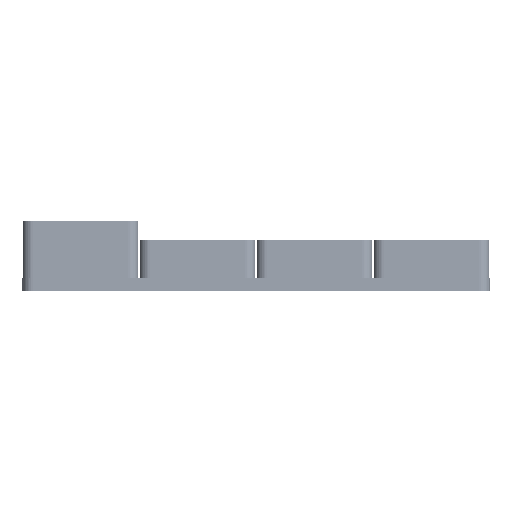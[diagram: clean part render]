
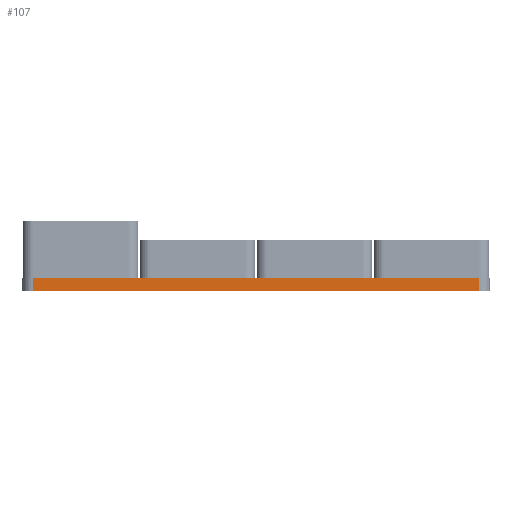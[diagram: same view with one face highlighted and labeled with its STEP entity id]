
A CAD part, left-side view. The second image highlights one B-rep face of the part: STEP entity #107.
In plain terms, the highlighted planar face has unit normal (-1, 0, 0).
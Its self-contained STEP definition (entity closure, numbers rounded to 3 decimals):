
#107 = ADVANCED_FACE('',(#108),#122,.F.);
#108 = FACE_BOUND('',#109,.F.);
#109 = EDGE_LOOP('',(#110,#145,#173,#201));
#110 = ORIENTED_EDGE('',*,*,#111,.F.);
#111 = EDGE_CURVE('',#112,#114,#116,.T.);
#112 = VERTEX_POINT('',#113);
#113 = CARTESIAN_POINT('',(-105.,-80.,4.75));
#114 = VERTEX_POINT('',#115);
#115 = CARTESIAN_POINT('',(-105.,80.,4.75));
#116 = SURFACE_CURVE('',#117,(#121,#133),.PCURVE_S1.);
#117 = LINE('',#118,#119);
#118 = CARTESIAN_POINT('',(-105.,-84.,4.75));
#119 = VECTOR('',#120,1.);
#120 = DIRECTION('',(-0.,1.,0.));
#121 = PCURVE('',#122,#127);
#122 = PLANE('',#123);
#123 = AXIS2_PLACEMENT_3D('',#124,#125,#126);
#124 = CARTESIAN_POINT('',(-105.,-84.,0.));
#125 = DIRECTION('',(1.,0.,-0.));
#126 = DIRECTION('',(0.,0.,1.));
#127 = DEFINITIONAL_REPRESENTATION('',(#128),#132);
#128 = LINE('',#129,#130);
#129 = CARTESIAN_POINT('',(4.75,0.));
#130 = VECTOR('',#131,1.);
#131 = DIRECTION('',(0.,-1.));
#132 = ( GEOMETRIC_REPRESENTATION_CONTEXT(2) 
PARAMETRIC_REPRESENTATION_CONTEXT() REPRESENTATION_CONTEXT('2D SPACE',''
  ) );
#133 = PCURVE('',#134,#139);
#134 = PLANE('',#135);
#135 = AXIS2_PLACEMENT_3D('',#136,#137,#138);
#136 = CARTESIAN_POINT('',(-105.,-84.,4.75));
#137 = DIRECTION('',(0.,0.,1.));
#138 = DIRECTION('',(1.,0.,-0.));
#139 = DEFINITIONAL_REPRESENTATION('',(#140),#144);
#140 = LINE('',#141,#142);
#141 = CARTESIAN_POINT('',(0.,0.));
#142 = VECTOR('',#143,1.);
#143 = DIRECTION('',(0.,1.));
#144 = ( GEOMETRIC_REPRESENTATION_CONTEXT(2) 
PARAMETRIC_REPRESENTATION_CONTEXT() REPRESENTATION_CONTEXT('2D SPACE',''
  ) );
#145 = ORIENTED_EDGE('',*,*,#146,.F.);
#146 = EDGE_CURVE('',#147,#112,#149,.T.);
#147 = VERTEX_POINT('',#148);
#148 = CARTESIAN_POINT('',(-105.,-80.,0.));
#149 = SURFACE_CURVE('',#150,(#154,#161),.PCURVE_S1.);
#150 = LINE('',#151,#152);
#151 = CARTESIAN_POINT('',(-105.,-80.,0.));
#152 = VECTOR('',#153,1.);
#153 = DIRECTION('',(0.,0.,1.));
#154 = PCURVE('',#122,#155);
#155 = DEFINITIONAL_REPRESENTATION('',(#156),#160);
#156 = LINE('',#157,#158);
#157 = CARTESIAN_POINT('',(0.,-4.));
#158 = VECTOR('',#159,1.);
#159 = DIRECTION('',(1.,0.));
#160 = ( GEOMETRIC_REPRESENTATION_CONTEXT(2) 
PARAMETRIC_REPRESENTATION_CONTEXT() REPRESENTATION_CONTEXT('2D SPACE',''
  ) );
#161 = PCURVE('',#162,#167);
#162 = CYLINDRICAL_SURFACE('',#163,4.);
#163 = AXIS2_PLACEMENT_3D('',#164,#165,#166);
#164 = CARTESIAN_POINT('',(-101.,-80.,0.));
#165 = DIRECTION('',(0.,0.,1.));
#166 = DIRECTION('',(-1.,-0.,0.));
#167 = DEFINITIONAL_REPRESENTATION('',(#168),#172);
#168 = LINE('',#169,#170);
#169 = CARTESIAN_POINT('',(0.,0.));
#170 = VECTOR('',#171,1.);
#171 = DIRECTION('',(0.,1.));
#172 = ( GEOMETRIC_REPRESENTATION_CONTEXT(2) 
PARAMETRIC_REPRESENTATION_CONTEXT() REPRESENTATION_CONTEXT('2D SPACE',''
  ) );
#173 = ORIENTED_EDGE('',*,*,#174,.T.);
#174 = EDGE_CURVE('',#147,#175,#177,.T.);
#175 = VERTEX_POINT('',#176);
#176 = CARTESIAN_POINT('',(-105.,80.,0.));
#177 = SURFACE_CURVE('',#178,(#182,#189),.PCURVE_S1.);
#178 = LINE('',#179,#180);
#179 = CARTESIAN_POINT('',(-105.,-84.,0.));
#180 = VECTOR('',#181,1.);
#181 = DIRECTION('',(-0.,1.,0.));
#182 = PCURVE('',#122,#183);
#183 = DEFINITIONAL_REPRESENTATION('',(#184),#188);
#184 = LINE('',#185,#186);
#185 = CARTESIAN_POINT('',(0.,0.));
#186 = VECTOR('',#187,1.);
#187 = DIRECTION('',(0.,-1.));
#188 = ( GEOMETRIC_REPRESENTATION_CONTEXT(2) 
PARAMETRIC_REPRESENTATION_CONTEXT() REPRESENTATION_CONTEXT('2D SPACE',''
  ) );
#189 = PCURVE('',#190,#195);
#190 = PLANE('',#191);
#191 = AXIS2_PLACEMENT_3D('',#192,#193,#194);
#192 = CARTESIAN_POINT('',(-105.,-84.,0.));
#193 = DIRECTION('',(0.,0.,1.));
#194 = DIRECTION('',(1.,0.,-0.));
#195 = DEFINITIONAL_REPRESENTATION('',(#196),#200);
#196 = LINE('',#197,#198);
#197 = CARTESIAN_POINT('',(0.,0.));
#198 = VECTOR('',#199,1.);
#199 = DIRECTION('',(0.,1.));
#200 = ( GEOMETRIC_REPRESENTATION_CONTEXT(2) 
PARAMETRIC_REPRESENTATION_CONTEXT() REPRESENTATION_CONTEXT('2D SPACE',''
  ) );
#201 = ORIENTED_EDGE('',*,*,#202,.T.);
#202 = EDGE_CURVE('',#175,#114,#203,.T.);
#203 = SURFACE_CURVE('',#204,(#208,#215),.PCURVE_S1.);
#204 = LINE('',#205,#206);
#205 = CARTESIAN_POINT('',(-105.,80.,0.));
#206 = VECTOR('',#207,1.);
#207 = DIRECTION('',(0.,0.,1.));
#208 = PCURVE('',#122,#209);
#209 = DEFINITIONAL_REPRESENTATION('',(#210),#214);
#210 = LINE('',#211,#212);
#211 = CARTESIAN_POINT('',(0.,-164.));
#212 = VECTOR('',#213,1.);
#213 = DIRECTION('',(1.,0.));
#214 = ( GEOMETRIC_REPRESENTATION_CONTEXT(2) 
PARAMETRIC_REPRESENTATION_CONTEXT() REPRESENTATION_CONTEXT('2D SPACE',''
  ) );
#215 = PCURVE('',#216,#221);
#216 = CYLINDRICAL_SURFACE('',#217,4.);
#217 = AXIS2_PLACEMENT_3D('',#218,#219,#220);
#218 = CARTESIAN_POINT('',(-101.,80.,0.));
#219 = DIRECTION('',(0.,0.,1.));
#220 = DIRECTION('',(-1.,-0.,0.));
#221 = DEFINITIONAL_REPRESENTATION('',(#222),#226);
#222 = LINE('',#223,#224);
#223 = CARTESIAN_POINT('',(-0.,0.));
#224 = VECTOR('',#225,1.);
#225 = DIRECTION('',(-0.,1.));
#226 = ( GEOMETRIC_REPRESENTATION_CONTEXT(2) 
PARAMETRIC_REPRESENTATION_CONTEXT() REPRESENTATION_CONTEXT('2D SPACE',''
  ) );
